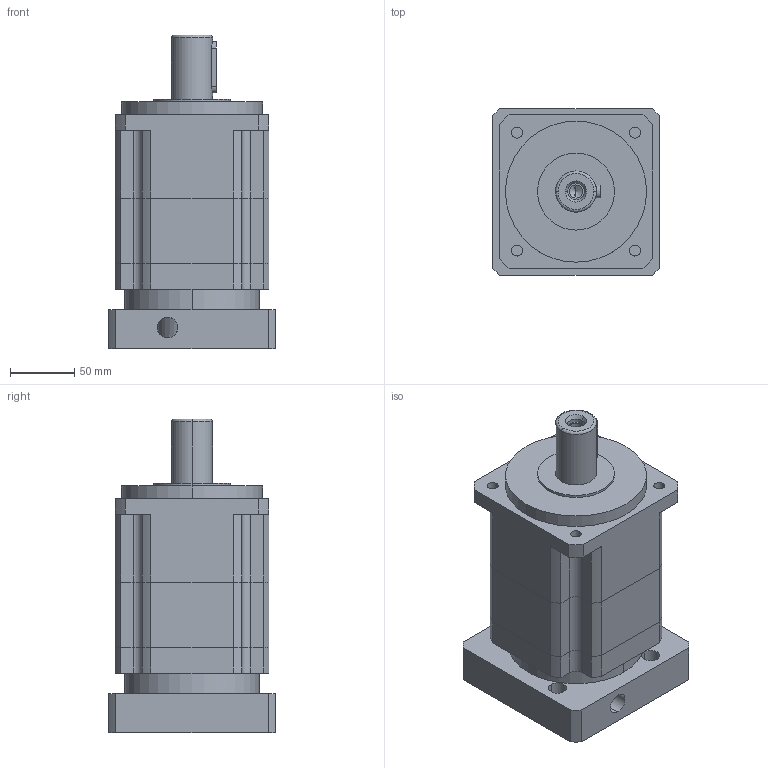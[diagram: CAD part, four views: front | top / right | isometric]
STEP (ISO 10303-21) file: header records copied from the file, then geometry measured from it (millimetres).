
FILE_DESCRIPTION (( 'STEP AP203' ), '1' );
FILE_NAME ('PAG120-L2-24-110-145.STEP', '2024-04-18T01:37:57', ( 'Windows User' ), ( 'P R C' ), 'SwSTEP 2.0', 'SolidWorks 2016', '' );
FILE_SCHEMA (( 'CONFIG_CONTROL_DESIGN' ));
Length unit declared in the file: millimetre
Products named in the file (8): PAG120-本体齿圈; PAG120-薊粣ん-24_LZ03; PAG120-帣釱; 囀鞠褒蹟佪-M8℅25; 邧埴瑩 10x8x40; 粣創-6009 45x75x16; PAG120-二级齿圈; PAG120-L2-24-110-145
Assembly tree (7 placements, depth 2):
  PAG120-L2-24-110-145
    PAG120-本体齿圈
    PAG120-薊粣ん-24_LZ03
    PAG120-帣釱
    囀鞠褒蹟佪-M8℅25
    邧埴瑩 10x8x40
    粣創-6009 45x75x16
    PAG120-二级齿圈
Bounding box: 130 x 130 x 244.5 mm (x, y, z)
Volume: 2297320.3 mm3; surface area: 260824.3 mm2
Topology: 7 solids, 7 shells, 1043 faces, 2872 edges, 1894 vertices
Faces by surface type: plane 584, bspline 266, cylinder 177, cone 16
Entity records: 44240 total; most frequent: CARTESIAN_POINT 18408, ORIENTED_EDGE 5716, DIRECTION 4342, EDGE_CURVE 2858, VERTEX_POINT 1890, LINE 1686, VECTOR 1686, AXIS2_PLACEMENT_3D 1328
